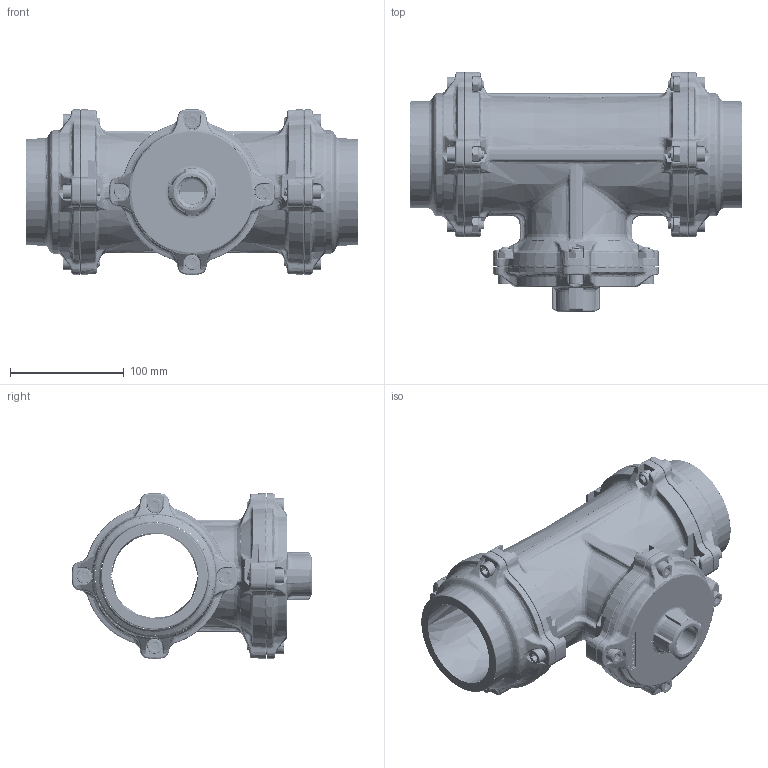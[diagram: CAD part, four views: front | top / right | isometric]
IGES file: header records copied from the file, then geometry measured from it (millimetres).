
Start section: SolidWorks IGES file using analytic representation for surfaces
Global section: file name: C:\Users\Cad02\Desktop\9023600009.IGS; native system: SolidWorks 2013; preprocessor: SolidWorks 2013; author: cad02; date: 140416.141641; units: millimetre
Bounding box: 291.6 x 211.03 x 145.38 mm (x, y, z)
Surface area: 274226.8 mm2 (no closed solid volume)
Topology: 0 solids, 0 shells, 7151 faces, 71099 edges, 70980 vertices
Faces by surface type: bspline 4776, revolution 2375
